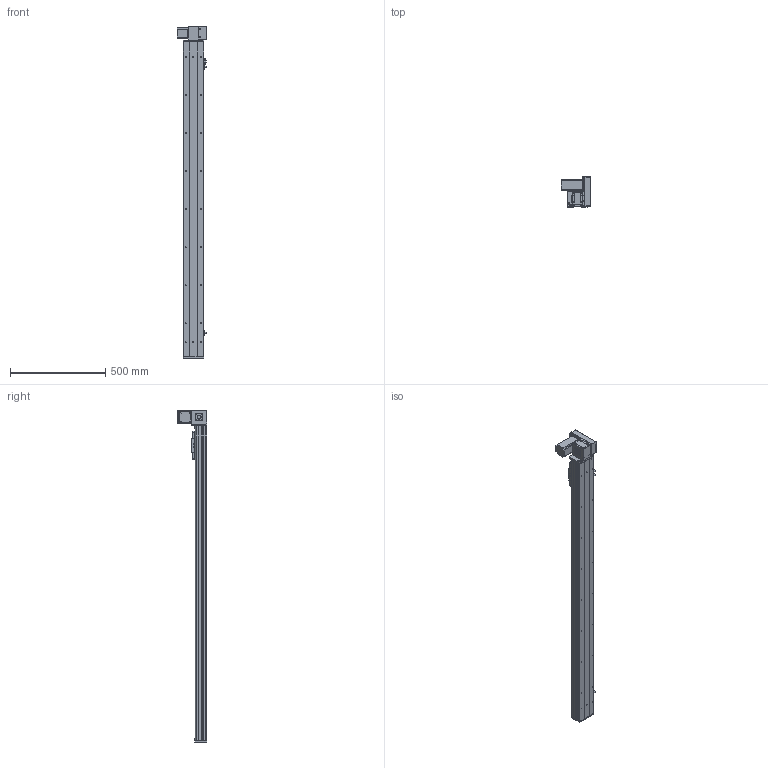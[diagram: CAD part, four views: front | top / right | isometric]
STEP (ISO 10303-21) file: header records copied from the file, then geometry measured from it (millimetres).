
FILE_DESCRIPTION (( 'STEP AP203' ), '1' );
FILE_NAME ('Y10CB-D90-S1400-UR-P400W.STEP', '2020-02-16T03:47:02', ( '微软用户' ), ( '微软中国' ), 'SwSTEP 2.0', 'SolidWorks 2017', '' );
FILE_SCHEMA (( 'CONFIG_CONTROL_DESIGN' ));
Length unit declared in the file: millimetre
Products named in the file (18): 00B-俋欶BM--; Y10CB- 掛极耜裔啣-毀---; 0CB-雄赽釱---; Y10CB-D90-S1400-UR-P400W; Y10C---詩湍揤啣; 0Cb-俋欶---; 10CB9-掛极; Y10B-々湍喘謫眊楊擘啣--; 10CB-耜裔; 0B-萇儂楊擘啣; Y135C-陔俋离換覜結え-; san松下电机400不带刹车----; Y100-135俋离換覜ん--; 0B-源倛裔啣; Y10B--々湍喘謫眊--666; 0B-埴倛裔啣; Y10B-耜蚾蟀諉啣----; 10CB-詩湍-
Assembly tree (21 placements, depth 2):
  Y10CB-D90-S1400-UR-P400W
    0CB-雄赽釱---
    0Cb-俋欶---
    Y10B-々湍喘謫眊楊擘啣--
    0B-萇儂楊擘啣
    san松下电机400不带刹车----
    0B-源倛裔啣
    0B-埴倛裔啣
    10CB-詩湍-
    Y10CB- 掛极耜裔啣-毀---  x2
    Y10C---詩湍揤啣  x2
    10CB9-掛极
    10CB-耜裔
    Y135C-陔俋离換覜結え-
    Y100-135俋离換覜ん--  x3
    Y10B--々湍喘謫眊--666
    Y10B-耜蚾蟀諉啣----
    00B-俋欶BM--
Bounding box: 157 x 155.5 x 1746 mm (x, y, z)
Volume: 3833862.1 mm3; surface area: 1763720.5 mm2
Topology: 21 solids, 21 shells, 1014 faces, 2723 edges, 1778 vertices
Faces by surface type: cylinder 509, plane 481, cone 24
Entity records: 31912 total; most frequent: CARTESIAN_POINT 5765, DIRECTION 5134, ORIENTED_EDGE 4916, EDGE_CURVE 2458, AXIS2_PLACEMENT_3D 1837, VERTEX_POINT 1604, LINE 1460, VECTOR 1460
